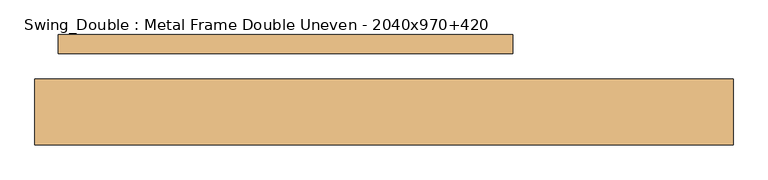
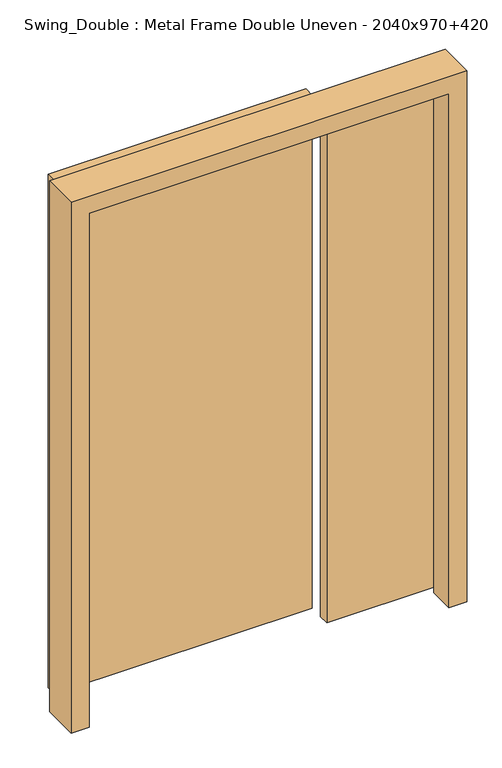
"""IFC4 building model written with IfcOpenShell, lengths in millimetres: door geometry, Swing_Double : Metal Frame Double Uneven - 2040x970+420."""

from ifc_helpers import new_model, si_unit, frame, origin, place, context, project, spatial, polyline, outline, extrude, faceted_brep, source, transform, mapped, element, save


def swing_double_metal_frame_double_uneven_2040x970_420_3f28db50(model_context):
    return source(origin(), model_context, "Body", "SolidModel", [
        extrude(outline(polyline([(63.5, 70.0), (483.5, 70.0), (483.5, 30.0), (63.5, 30.0), (63.5, 70.0)])), frame((0.0, 0.0, 20.0), z_axis=(0.0, 0.0, 1.0), x_axis=(1.0, 0.0, 0.0)), (0.0, 0.0, 1.0), 2040.0),
        extrude(outline(polyline([(63.5, 165.0), (63.5, 125.0), (-906.5, 125.0), (-906.5, 165.0), (63.5, 165.0)])), frame((0.0, 0.0, 20.0), z_axis=(0.0, 0.0, 1.0), x_axis=(1.0, 0.0, 0.0)), (0.0, 0.0, 1.0), 2040.0),
        faceted_brep([(533.5, -70.0, 0.0), (465.5, -70.0, 0.0), (465.5, 28.0, 0.0), (485.5, 28.0, 0.0), (485.5, 70.0, 0.0), (533.5, 70.0, 0.0), (533.5, -70.0, 2110.0), (-956.5, -70.0, 2110.0), (-956.5, -70.0, 0.0), (-888.5, -70.0, 0.0), (-888.5, -70.0, 2042.0), (465.5, -70.0, 2042.0), (465.5, 28.0, 2042.0), (-888.5, 28.0, 2042.0), (-888.5, 28.0, 0.0), (-908.5, 28.0, 0.0), (-908.5, 28.0, 2062.0), (485.5, 28.0, 2062.0), (485.5, 70.0, 2062.0), (-908.5, 70.0, 2062.0), (-908.5, 70.0, 0.0), (-956.5, 70.0, 0.0), (-956.5, 70.0, 2110.0), (533.5, 70.0, 2110.0)], [[[0, 1, 2, 3, 4, 5]], [[1, 0, 6, 7, 8, 9, 10, 11]], [[2, 1, 11, 12]], [[3, 2, 12, 13, 14, 15, 16, 17]], [[4, 3, 17, 18]], [[5, 4, 18, 19, 20, 21, 22, 23]], [[0, 5, 23, 6]], [[19, 16, 15, 20]], [[8, 21, 20, 15, 14, 9]], [[7, 22, 21, 8]], [[13, 10, 9, 14]], [[6, 23, 22, 7]], [[18, 17, 16, 19]], [[12, 11, 10, 13]]]),
    ])


if __name__ == "__main__":
    model = new_model("IFC4")
    model_context = context("Model", 3, world=origin())
    ifc_project = project(units=[si_unit("LENGTHUNIT", "METRE", prefix="MILLI")], contexts=[model_context])
    site = spatial("IfcSite", under=ifc_project)
    building = spatial("IfcBuilding", under=site)
    placement = place(None, origin())
    swing_double_metal_frame_double_uneven_2040x970_420_shape = swing_double_metal_frame_double_uneven_2040x970_420_3f28db50(model_context)
    element("IfcDoor", 1, ObjectType="Swing_Double : Metal Frame Double Uneven - 2040x970+420", at=placement, inside=building, context=model_context, shape_type="MappedRepresentation", body=[
        mapped(swing_double_metal_frame_double_uneven_2040x970_420_shape, transform((0.0, 0.0, 0.0), x_axis=(1.0, 0.0, 0.0), y_axis=(0.0, 1.0, 0.0), z_axis=(0.0, 0.0, 1.0))),
    ])
    save(model, "model.ifc")
